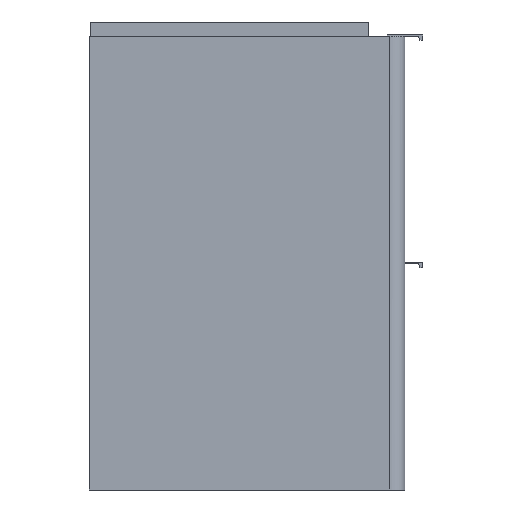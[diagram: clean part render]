
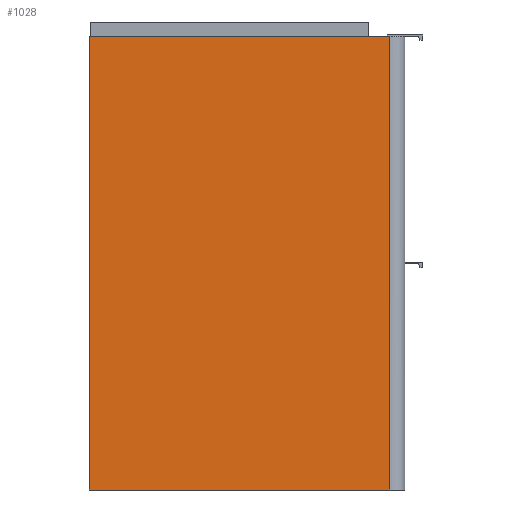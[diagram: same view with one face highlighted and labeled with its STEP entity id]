
A CAD part, left-side view. The second image highlights one B-rep face of the part: STEP entity #1028.
In plain terms, the highlighted planar face has unit normal (-1, 0, 0).
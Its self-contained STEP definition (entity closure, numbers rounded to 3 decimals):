
#1028=ADVANCED_FACE('',(#1609),#10571,.T.);
#1609=FACE_OUTER_BOUND('',#2272,.T.);
#2272=EDGE_LOOP('',(#5543,#5544,#5545,#5546));
#5543=ORIENTED_EDGE('',*,*,#7262,.F.);
#5544=ORIENTED_EDGE('',*,*,#7269,.T.);
#5545=ORIENTED_EDGE('',*,*,#7270,.T.);
#5546=ORIENTED_EDGE('',*,*,#7265,.T.);
#7262=EDGE_CURVE('',#10111,#10112,#8938,.T.);
#7265=EDGE_CURVE('',#10114,#10112,#8940,.T.);
#7269=EDGE_CURVE('',#10111,#10117,#8944,.T.);
#7270=EDGE_CURVE('',#10117,#10114,#8945,.T.);
#8938=B_SPLINE_CURVE_WITH_KNOTS('',1,(#19534,#19535),.UNSPECIFIED.,.F.,
 .F.,(2,2),(0.,515.),.UNSPECIFIED.);
#8940=B_SPLINE_CURVE_WITH_KNOTS('',1,(#19541,#19542),.UNSPECIFIED.,.F.,
 .F.,(2,2),(-341.,0.),.UNSPECIFIED.);
#8944=B_SPLINE_CURVE_WITH_KNOTS('',1,(#19549,#19550),.UNSPECIFIED.,.F.,
 .F.,(2,2),(-341.,0.),.UNSPECIFIED.);
#8945=B_SPLINE_CURVE_WITH_KNOTS('',1,(#19551,#19552),.UNSPECIFIED.,.F.,
 .F.,(2,2),(-515.,0.),.UNSPECIFIED.);
#10111=VERTEX_POINT('',#19522);
#10112=VERTEX_POINT('',#19523);
#10114=VERTEX_POINT('',#19525);
#10117=VERTEX_POINT('',#19528);
#10571=PLANE('',#11669);
#11669=AXIS2_PLACEMENT_3D('',#19516,#12240,$);
#12240=DIRECTION('',(-1.,0.,0.));
#19516=CARTESIAN_POINT('',(-260.,213.22,-51.62));
#19522=CARTESIAN_POINT('',(-260.,-162.,515.));
#19523=CARTESIAN_POINT('',(-260.,-162.,0.));
#19525=CARTESIAN_POINT('',(-260.,179.,0.));
#19528=CARTESIAN_POINT('',(-260.,179.,515.));
#19534=CARTESIAN_POINT('',(-260.,-162.,515.));
#19535=CARTESIAN_POINT('',(-260.,-162.,0.));
#19541=CARTESIAN_POINT('',(-260.,179.,0.));
#19542=CARTESIAN_POINT('',(-260.,-162.,0.));
#19549=CARTESIAN_POINT('',(-260.,-162.,515.));
#19550=CARTESIAN_POINT('',(-260.,179.,515.));
#19551=CARTESIAN_POINT('',(-260.,179.,515.));
#19552=CARTESIAN_POINT('',(-260.,179.,0.));
